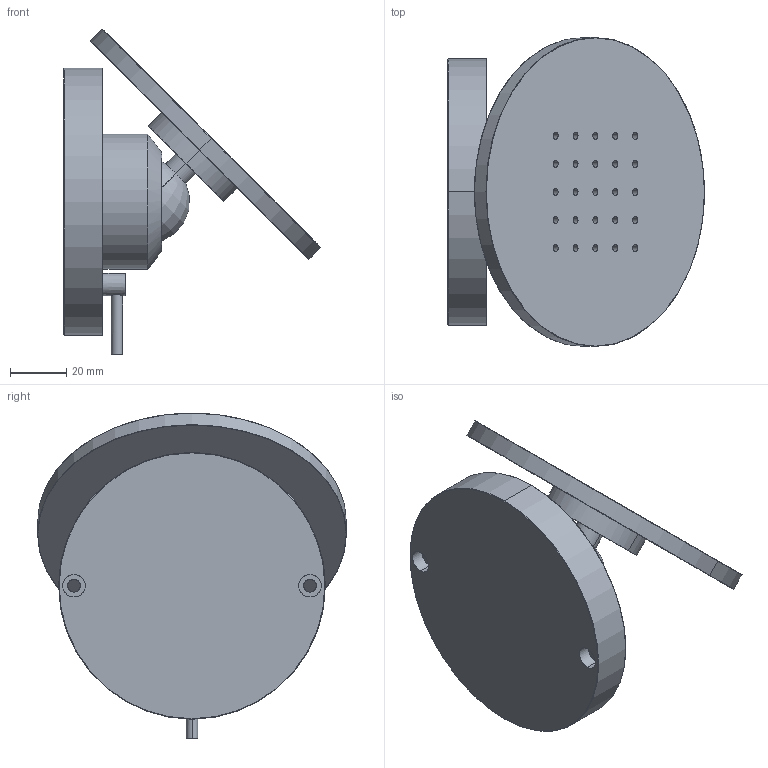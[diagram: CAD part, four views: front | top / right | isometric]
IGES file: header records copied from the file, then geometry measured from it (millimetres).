
Start section: SolidWorks IGES file using analytic representation for surfaces
Global section: file name: C:\Users\dubin\Desktop\0107\PR-SD93\PR-SD93（45度位置）.IGS; native system: SolidWorks 2017; preprocessor: SolidWorks 2017; author: PDV; date: 230107.091408; units: millimetre
Bounding box: 91.45 x 110 x 115.95 mm (x, y, z)
Surface area: 48903.9 mm2 (no closed solid volume)
Topology: 0 solids, 0 shells, 428 faces, 5469 edges, 5467 vertices
Faces by surface type: bspline 338, revolution 90
